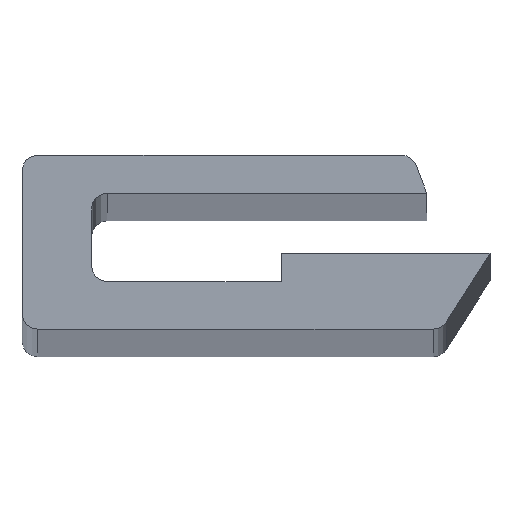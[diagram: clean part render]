
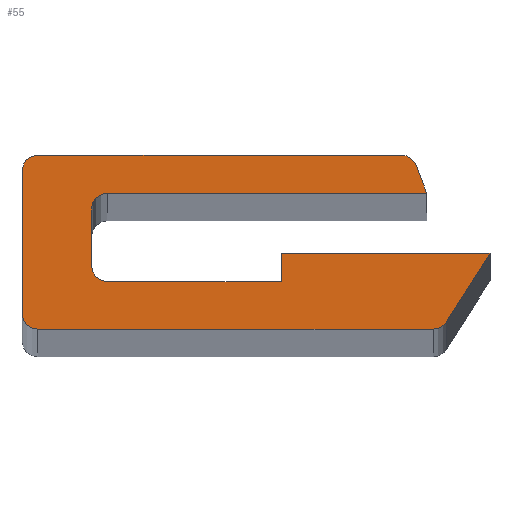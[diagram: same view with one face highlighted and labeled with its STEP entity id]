
A CAD part, top view. The second image highlights one B-rep face of the part: STEP entity #55.
In plain terms, the highlighted planar face has unit normal (0, 0, 1).
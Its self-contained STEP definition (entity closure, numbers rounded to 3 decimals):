
#10 = EDGE_CURVE ( 'NONE', #104, #107, #246, .T. ) ;
#13 = EDGE_CURVE ( 'NONE', #145, #17, #338, .T. ) ;
#17 = VERTEX_POINT ( 'NONE', #297 ) ;
#22 = EDGE_CURVE ( 'NONE', #17, #149, #354, .T. ) ;
#25 = EDGE_CURVE ( 'NONE', #107, #32, #340, .T. ) ;
#27 = EDGE_CURVE ( 'NONE', #32, #42, #268, .T. ) ;
#32 = VERTEX_POINT ( 'NONE', #259 ) ;
#36 = ORIENTED_EDGE ( 'NONE', *, *, #13, .F. ) ;
#37 = ORIENTED_EDGE ( 'NONE', *, *, #22, .F. ) ;
#39 = ORIENTED_EDGE ( 'NONE', *, *, #181, .F. ) ;
#40 = ORIENTED_EDGE ( 'NONE', *, *, #27, .F. ) ;
#41 = ORIENTED_EDGE ( 'NONE', *, *, #144, .F. ) ;
#42 = VERTEX_POINT ( 'NONE', #257 ) ;
#43 = ORIENTED_EDGE ( 'NONE', *, *, #94, .F. ) ;
#45 = ORIENTED_EDGE ( 'NONE', *, *, #25, .F. ) ;
#48 = ORIENTED_EDGE ( 'NONE', *, *, #186, .F. ) ;
#50 = ORIENTED_EDGE ( 'NONE', *, *, #177, .F. ) ;
#53 = ORIENTED_EDGE ( 'NONE', *, *, #230, .F. ) ;
#55 = ADVANCED_FACE ( 'NONE', ( #355 ), #350, .F. ) ;
#57 = EDGE_LOOP ( 'NONE', ( #62, #39, #68, #50, #60, #48, #63, #64, #43, #41, #53, #37, #36, #67, #40, #45 ) ) ;
#60 = ORIENTED_EDGE ( 'NONE', *, *, #199, .F. ) ;
#62 = ORIENTED_EDGE ( 'NONE', *, *, #10, .F. ) ;
#63 = ORIENTED_EDGE ( 'NONE', *, *, #130, .F. ) ;
#64 = ORIENTED_EDGE ( 'NONE', *, *, #220, .F. ) ;
#67 = ORIENTED_EDGE ( 'NONE', *, *, #126, .F. ) ;
#68 = ORIENTED_EDGE ( 'NONE', *, *, #173, .F. ) ;
#94 = EDGE_CURVE ( 'NONE', #97, #143, #326, .T. ) ;
#97 = VERTEX_POINT ( 'NONE', #318 ) ;
#104 = VERTEX_POINT ( 'NONE', #314 ) ;
#107 = VERTEX_POINT ( 'NONE', #305 ) ;
#126 = EDGE_CURVE ( 'NONE', #42, #145, #363, .T. ) ;
#130 = EDGE_CURVE ( 'NONE', #212, #214, #394, .T. ) ;
#143 = VERTEX_POINT ( 'NONE', #424 ) ;
#144 = EDGE_CURVE ( 'NONE', #228, #97, #420, .T. ) ;
#145 = VERTEX_POINT ( 'NONE', #443 ) ;
#149 = VERTEX_POINT ( 'NONE', #383 ) ;
#173 = EDGE_CURVE ( 'NONE', #205, #175, #496, .T. ) ;
#175 = VERTEX_POINT ( 'NONE', #507 ) ;
#177 = EDGE_CURVE ( 'NONE', #202, #205, #564, .T. ) ;
#181 = EDGE_CURVE ( 'NONE', #175, #104, #554, .T. ) ;
#186 = EDGE_CURVE ( 'NONE', #214, #187, #480, .T. ) ;
#187 = VERTEX_POINT ( 'NONE', #567 ) ;
#199 = EDGE_CURVE ( 'NONE', #187, #202, #600, .T. ) ;
#202 = VERTEX_POINT ( 'NONE', #556 ) ;
#205 = VERTEX_POINT ( 'NONE', #528 ) ;
#212 = VERTEX_POINT ( 'NONE', #584 ) ;
#214 = VERTEX_POINT ( 'NONE', #491 ) ;
#220 = EDGE_CURVE ( 'NONE', #143, #212, #519, .T. ) ;
#228 = VERTEX_POINT ( 'NONE', #492 ) ;
#230 = EDGE_CURVE ( 'NONE', #149, #228, #581, .T. ) ;
#239 = CARTESIAN_POINT ( 'NONE',  ( 2.7, -3.5, 0. ) ) ;
#241 = DIRECTION ( 'NONE',  ( 0., -1., 0. ) ) ;
#242 = CARTESIAN_POINT ( 'NONE',  ( 2.2, -1.7, 0. ) ) ;
#246 = CIRCLE ( 'NONE', #281, 0.5 ) ;
#253 = VECTOR ( 'NONE', #241, 1000. ) ;
#257 = CARTESIAN_POINT ( 'NONE',  ( 2.7, -1.2, 0. ) ) ;
#258 = CARTESIAN_POINT ( 'NONE',  ( 12., -0.5, 0. ) ) ;
#259 = CARTESIAN_POINT ( 'NONE',  ( 12.8, -1.2, 0. ) ) ;
#264 = VECTOR ( 'NONE', #317, 1000. ) ;
#265 = DIRECTION ( 'NONE',  ( -1., 0., 0. ) ) ;
#266 = VECTOR ( 'NONE', #265, 1000. ) ;
#267 = CARTESIAN_POINT ( 'NONE',  ( 12.8, -1.2, 0. ) ) ;
#268 = LINE ( 'NONE', #267, #266 ) ;
#281 = AXIS2_PLACEMENT_3D ( 'NONE', #284, #283, #282 ) ;
#282 = DIRECTION ( 'NONE',  ( -1., 0., 0. ) ) ;
#283 = DIRECTION ( 'NONE',  ( 0., 0., -1. ) ) ;
#284 = CARTESIAN_POINT ( 'NONE',  ( 12., -0.5, 0. ) ) ;
#297 = CARTESIAN_POINT ( 'NONE',  ( 2.2, -3.5, 0. ) ) ;
#305 = CARTESIAN_POINT ( 'NONE',  ( 12.468, -0.323, 0. ) ) ;
#314 = CARTESIAN_POINT ( 'NONE',  ( 12., 0., 0. ) ) ;
#317 = DIRECTION ( 'NONE',  ( 1., 0., 0. ) ) ;
#318 = CARTESIAN_POINT ( 'NONE',  ( 8.2, -3.1, 0. ) ) ;
#326 = LINE ( 'NONE', #329, #264 ) ;
#327 = DIRECTION ( 'NONE',  ( -1., 0., 0. ) ) ;
#328 = DIRECTION ( 'NONE',  ( 0., 0., -1. ) ) ;
#329 = CARTESIAN_POINT ( 'NONE',  ( 8.2, -3.1, 0. ) ) ;
#333 = AXIS2_PLACEMENT_3D ( 'NONE', #258, #328, #327 ) ;
#338 = LINE ( 'NONE', #242, #253 ) ;
#340 = LINE ( 'NONE', #345, #344 ) ;
#343 = DIRECTION ( 'NONE',  ( 0.354, -0.935, 0. ) ) ;
#344 = VECTOR ( 'NONE', #343, 1000. ) ;
#345 = CARTESIAN_POINT ( 'NONE',  ( 12.468, -0.323, 0. ) ) ;
#350 = PLANE ( 'NONE',  #333 ) ;
#351 = DIRECTION ( 'NONE',  ( 1., 0., 0. ) ) ;
#352 = DIRECTION ( 'NONE',  ( 0., 0., 1. ) ) ;
#354 = CIRCLE ( 'NONE', #358, 0.5 ) ;
#355 = FACE_OUTER_BOUND ( 'NONE', #57, .T. ) ;
#358 = AXIS2_PLACEMENT_3D ( 'NONE', #239, #352, #351 ) ;
#363 = CIRCLE ( 'NONE', #400, 0.5 ) ;
#383 = CARTESIAN_POINT ( 'NONE',  ( 2.7, -4., 0. ) ) ;
#394 = CIRCLE ( 'NONE', #449, 0.5 ) ;
#400 = AXIS2_PLACEMENT_3D ( 'NONE', #411, #410, #409 ) ;
#409 = DIRECTION ( 'NONE',  ( 1., 0., 0. ) ) ;
#410 = DIRECTION ( 'NONE',  ( 0., 0., 1. ) ) ;
#411 = CARTESIAN_POINT ( 'NONE',  ( 2.7, -1.7, 0. ) ) ;
#420 = LINE ( 'NONE', #458, #457 ) ;
#424 = CARTESIAN_POINT ( 'NONE',  ( 14.8, -3.1, 0. ) ) ;
#443 = CARTESIAN_POINT ( 'NONE',  ( 2.2, -1.7, 0. ) ) ;
#448 = CARTESIAN_POINT ( 'NONE',  ( 13., -5., 0. ) ) ;
#449 = AXIS2_PLACEMENT_3D ( 'NONE', #448, #464, #463 ) ;
#456 = DIRECTION ( 'NONE',  ( 0., 1., 0. ) ) ;
#457 = VECTOR ( 'NONE', #456, 1000. ) ;
#458 = CARTESIAN_POINT ( 'NONE',  ( 8.2, -4., 0. ) ) ;
#463 = DIRECTION ( 'NONE',  ( -1., 0., 0. ) ) ;
#464 = DIRECTION ( 'NONE',  ( 0., 0., -1. ) ) ;
#467 = DIRECTION ( 'NONE',  ( 1., 0., 0. ) ) ;
#468 = VECTOR ( 'NONE', #467, 1000. ) ;
#476 = DIRECTION ( 'NONE',  ( -1., 0., 0. ) ) ;
#477 = DIRECTION ( 'NONE',  ( 0., 0., -1. ) ) ;
#480 = LINE ( 'NONE', #566, #559 ) ;
#481 = CARTESIAN_POINT ( 'NONE',  ( 0., -5., 0. ) ) ;
#489 = DIRECTION ( 'NONE',  ( 0., 0., -1. ) ) ;
#490 = AXIS2_PLACEMENT_3D ( 'NONE', #568, #489, #540 ) ;
#491 = CARTESIAN_POINT ( 'NONE',  ( 13., -5.5, 0. ) ) ;
#492 = CARTESIAN_POINT ( 'NONE',  ( 8.2, -4., 0. ) ) ;
#496 = CIRCLE ( 'NONE', #490, 0.5 ) ;
#501 = VECTOR ( 'NONE', #508, 1000. ) ;
#507 = CARTESIAN_POINT ( 'NONE',  ( 0.5, 0., 0. ) ) ;
#508 = DIRECTION ( 'NONE',  ( 0., 1., 0. ) ) ;
#519 = LINE ( 'NONE', #534, #533 ) ;
#528 = CARTESIAN_POINT ( 'NONE',  ( 0., -0.5, 0. ) ) ;
#531 = CARTESIAN_POINT ( 'NONE',  ( 2.7, -4., 0. ) ) ;
#532 = DIRECTION ( 'NONE',  ( -0.536, -0.844, 0. ) ) ;
#533 = VECTOR ( 'NONE', #532, 1000. ) ;
#534 = CARTESIAN_POINT ( 'NONE',  ( 14.8, -3.1, 0. ) ) ;
#540 = DIRECTION ( 'NONE',  ( 1., 0., 0. ) ) ;
#542 = CARTESIAN_POINT ( 'NONE',  ( 0.5, -5., 0. ) ) ;
#554 = LINE ( 'NONE', #604, #603 ) ;
#556 = CARTESIAN_POINT ( 'NONE',  ( 0., -5., 0. ) ) ;
#559 = VECTOR ( 'NONE', #565, 1000. ) ;
#560 = AXIS2_PLACEMENT_3D ( 'NONE', #542, #477, #476 ) ;
#564 = LINE ( 'NONE', #481, #501 ) ;
#565 = DIRECTION ( 'NONE',  ( -1., 0., 0. ) ) ;
#566 = CARTESIAN_POINT ( 'NONE',  ( 13., -5.5, 0. ) ) ;
#567 = CARTESIAN_POINT ( 'NONE',  ( 0.5, -5.5, 0. ) ) ;
#568 = CARTESIAN_POINT ( 'NONE',  ( 0.5, -0.5, 0. ) ) ;
#581 = LINE ( 'NONE', #531, #468 ) ;
#584 = CARTESIAN_POINT ( 'NONE',  ( 13.422, -5.268, 0. ) ) ;
#600 = CIRCLE ( 'NONE', #560, 0.5 ) ;
#602 = DIRECTION ( 'NONE',  ( 1., 0., 0. ) ) ;
#603 = VECTOR ( 'NONE', #602, 1000. ) ;
#604 = CARTESIAN_POINT ( 'NONE',  ( 0.5, 0., 0. ) ) ;
